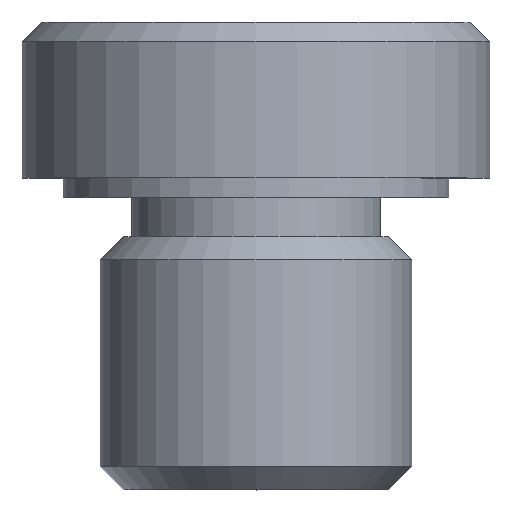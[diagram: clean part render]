
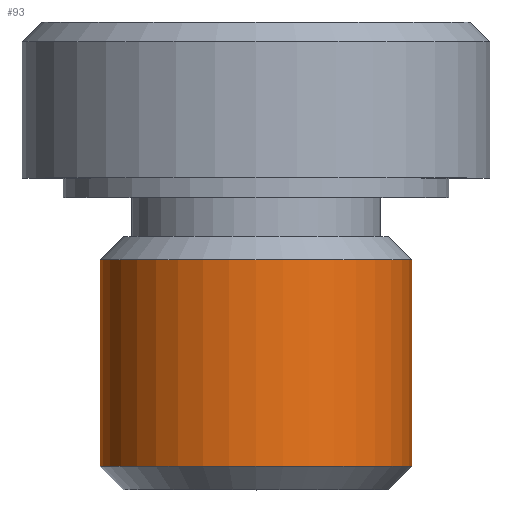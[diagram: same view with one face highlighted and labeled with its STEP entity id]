
A CAD part, top view. The second image highlights one B-rep face of the part: STEP entity #93.
In plain terms, the highlighted cylindrical face has radius 4 mm (diameter 8 mm), a full revolution.
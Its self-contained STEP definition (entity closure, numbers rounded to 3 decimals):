
#93 = ADVANCED_FACE( '', ( #143, #144 ), #145, .T. );
#143 = FACE_OUTER_BOUND( '', #198, .T. );
#144 = FACE_OUTER_BOUND( '', #199, .T. );
#145 = CYLINDRICAL_SURFACE( '', #200, 4. );
#198 = EDGE_LOOP( '', ( #317 ) );
#199 = EDGE_LOOP( '', ( #318 ) );
#200 = AXIS2_PLACEMENT_3D( '', #319, #320, #321 );
#317 = ORIENTED_EDGE( '', *, *, #360, .F. );
#318 = ORIENTED_EDGE( '', *, *, #361, .T. );
#319 = CARTESIAN_POINT( '', ( 0., 0., 0. ) );
#320 = DIRECTION( '', ( 0., 1., 0. ) );
#321 = DIRECTION( '', ( 0., 0., -1. ) );
#360 = EDGE_CURVE( '', #413, #413, #414, .T. );
#361 = EDGE_CURVE( '', #415, #415, #416, .T. );
#413 = VERTEX_POINT( '', #487 );
#414 = CIRCLE( '', #488, 4. );
#415 = VERTEX_POINT( '', #489 );
#416 = CIRCLE( '', #490, 4. );
#487 = CARTESIAN_POINT( '', ( 0., 0.6, -4. ) );
#488 = AXIS2_PLACEMENT_3D( '', #541, #542, #543 );
#489 = CARTESIAN_POINT( '', ( 0., 5.9, -4. ) );
#490 = AXIS2_PLACEMENT_3D( '', #544, #545, #546 );
#541 = CARTESIAN_POINT( '', ( 0., 0.6, 0. ) );
#542 = DIRECTION( '', ( 0., -1., 0. ) );
#543 = DIRECTION( '', ( 0., 0., -1. ) );
#544 = CARTESIAN_POINT( '', ( 0., 5.9, 0. ) );
#545 = DIRECTION( '', ( 0., -1., 0. ) );
#546 = DIRECTION( '', ( 0., 0., -1. ) );
